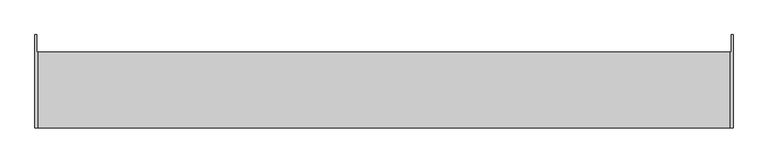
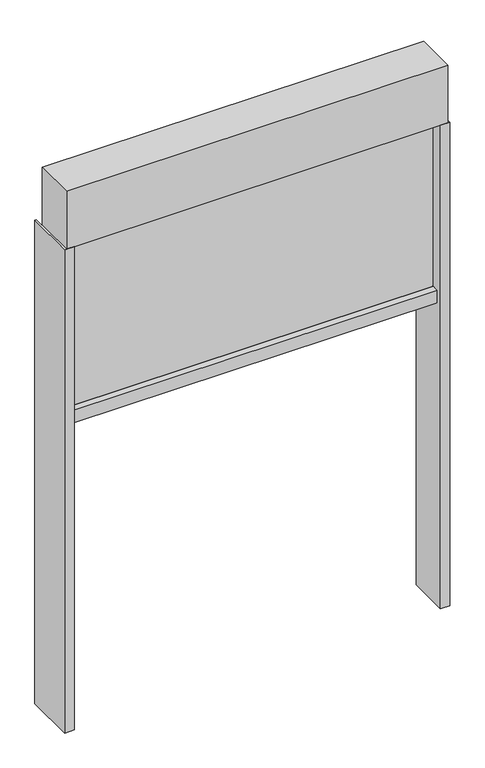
"""IFC4 building model written with IfcOpenShell, lengths in millimetres: proxy geometry, Renson_Fixscreen_Minimal_Single : Recessed - Front of the window - Medium - Access downwards - Fabric away from the window."""

from ifc_helpers import new_model, si_unit, point, frame, frame_2d, origin, origin_with_axes, place, context, project, spatial, polyline, circle_curve, trimmed, segment, composite_curve, outline, extrude, source, transform, mapped, element, save


def generic_models_a13b31bc(model_context):
    return source(origin(), model_context, "Body", "SweptSolid", [
        extrude(outline(polyline([(502.0, 693.5958591), (502.0, 718.5959909), (505.0, 718.5959909), (505.0, 583.5958591), (480.0, 583.5958591), (480.0, 693.5958591), (502.0, 693.5958591)])), origin_with_axes(), (0.0, 0.0, 1.0), 1340.0),
        extrude(outline(polyline([(-502.0, 693.5958591), (-480.0, 693.5958591), (-480.0, 583.5958591), (-505.0, 583.5958591), (-505.0, 718.5959909), (-502.0, 718.5959909), (-502.0, 693.5958591)])), origin_with_axes(), (0.0, 0.0, 1.0), 1340.0),
        extrude(outline(composite_curve([segment(polyline([(638.5709909, 840.0), (598.0710943, 840.0), (598.0710943, 874.1156826), (615.1952038, 875.0000198)]), True, "CONTINUOUS"), segment(trimmed(circle_curve(frame_2d((615.2209909, 874.5006852)), 0.5), [point((615.1952038, 875.0000198))], [point((615.7209909, 874.5006852))], False, "CARTESIAN"), True, "CONTINUOUS"), segment(polyline([(615.7209909, 874.5006852), (615.7209909, 873.5367989), (614.4558525, 873.5367989), (615.196156, 869.0119223)]), True, "CONTINUOUS"), segment(trimmed(circle_curve(frame_2d((575.7209909, 862.5534911)), 40.0), [point((615.196156, 869.0119223))], [point((615.7209909, 862.5534911))], False, "CARTESIAN"), True, "CONTINUOUS"), segment(polyline([(615.7209909, 862.5534911), (615.7209909, 854.5006852)]), True, "CONTINUOUS"), segment(trimmed(circle_curve(frame_2d((617.7209909, 854.5006852)), 2.0), [point((615.7209909, 854.5006852))], [point((617.7209909, 852.5006852))], True, "CARTESIAN"), True, "CONTINUOUS"), segment(polyline([(617.7209909, 852.5006852), (619.4209909, 852.5006852)]), True, "CONTINUOUS"), segment(trimmed(circle_curve(frame_2d((619.4209909, 854.5006852)), 2.0), [point((619.4209909, 852.5006852))], [point((621.4209909, 854.5006852))], True, "CARTESIAN"), True, "CONTINUOUS"), segment(polyline([(621.4209909, 854.5006852), (621.4209909, 862.5534911)]), True, "CONTINUOUS"), segment(trimmed(circle_curve(frame_2d((661.4209909, 862.5534911)), 40.0), [point((621.4209909, 862.5534911))], [point((621.9458257, 869.0119223))], False, "CARTESIAN"), True, "CONTINUOUS"), segment(polyline([(621.9458257, 869.0119223), (622.6861292, 873.5367989), (621.4209909, 873.5367989), (621.4209909, 874.5006852)]), True, "CONTINUOUS"), segment(trimmed(circle_curve(frame_2d((621.9209909, 874.5006852)), 0.5), [point((621.4209909, 874.5006852))], [point((621.9475541, 874.9999791))], False, "CARTESIAN"), True, "CONTINUOUS"), segment(polyline([(621.9475541, 874.9999791), (638.5709909, 874.1156826), (638.5709909, 840.0)]), True, "CONTINUOUS")], self_intersect=False)), frame((-480.0, 0.0, 0.0), z_axis=(1.0, 0.0, 0.0), x_axis=(0.0, 1.0, 0.0)), (0.0, 0.0, 1.0), 960.0),
        extrude(outline(polyline([(-480.0, 620.0709909), (480.0, 620.0709909), (480.0, 617.0709909), (-480.0, 617.0709909), (-480.0, 620.0709909)])), frame((0.0, 0.0, 852.5006852), z_axis=(0.0, 0.0, 1.0), x_axis=(1.0, 0.0, 0.0)), (0.0, 0.0, 1.0), 487.4993148),
        extrude(outline(polyline([(-500.0, 583.5959909), (-500.0, 693.5959909), (500.0, 693.5959909), (500.0, 583.5959909), (-500.0, 583.5959909)])), frame((0.0, 0.0, 1340.0), z_axis=(0.0, 0.0, 1.0), x_axis=(1.0, 0.0, 0.0)), (0.0, 0.0, 1.0), 160.0),
    ])


if __name__ == "__main__":
    model = new_model("IFC4")
    model_context = context("Model", 3, world=origin())
    ifc_project = project(units=[si_unit("LENGTHUNIT", "METRE", prefix="MILLI")], contexts=[model_context])
    site = spatial("IfcSite", under=ifc_project)
    building = spatial("IfcBuilding", under=site)
    placement = place(None, origin())
    generic_models_shape = generic_models_a13b31bc(model_context)
    element("IfcBuildingElementProxy", 1, Name="Renson_Fixscreen_Minimal_Single : Recessed - Front of the window - Medium - Access downwards - Fabric away from the window", ObjectType="Renson_Fixscreen_Minimal_Single : Recessed - Front of the window - Medium - Access downwards - Fabric away from the window", at=placement, inside=building, context=model_context, shape_type="MappedRepresentation", body=[
        mapped(generic_models_shape, transform((0.0, 0.0, 0.0), x_axis=(1.0, 0.0, 0.0), y_axis=(0.0, 1.0, 0.0), z_axis=(0.0, 0.0, 1.0))),
    ])
    save(model, "model.ifc")
